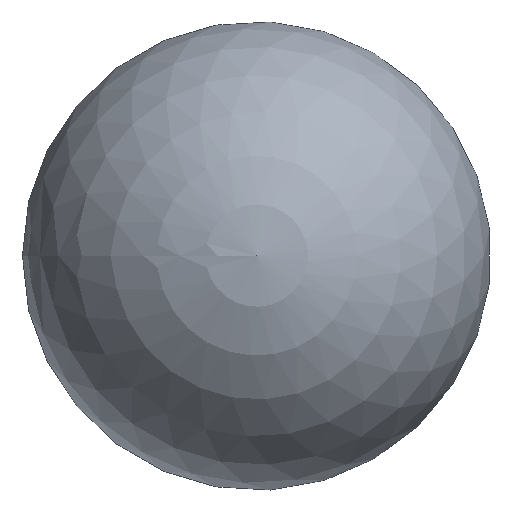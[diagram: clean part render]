
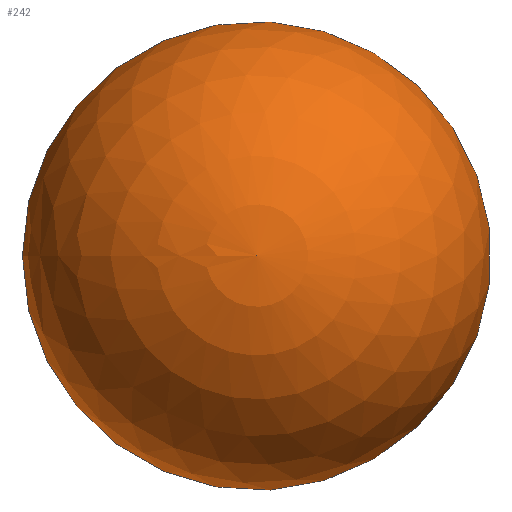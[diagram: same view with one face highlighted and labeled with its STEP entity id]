
A CAD part, top view. The second image highlights one B-rep face of the part: STEP entity #242.
In plain terms, the highlighted spherical face has radius 150 mm.
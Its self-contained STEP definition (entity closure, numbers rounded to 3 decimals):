
#19=SPHERICAL_SURFACE('',#303,150.);
#54=FACE_OUTER_BOUND('',#72,.T.);
#72=EDGE_LOOP('',(#213,#214,#215,#216));
#107=CIRCLE('',#304,41.414);
#108=CIRCLE('',#305,150.);
#109=CIRCLE('',#306,41.414);
#128=VERTEX_POINT('',#464);
#129=VERTEX_POINT('',#465);
#130=VERTEX_POINT('',#467);
#158=EDGE_CURVE('',#128,#129,#107,.T.);
#159=EDGE_CURVE('',#130,#128,#108,.T.);
#160=EDGE_CURVE('',#129,#128,#109,.T.);
#213=ORIENTED_EDGE('',*,*,#158,.F.);
#214=ORIENTED_EDGE('',*,*,#159,.F.);
#215=ORIENTED_EDGE('',*,*,#159,.T.);
#216=ORIENTED_EDGE('',*,*,#160,.F.);
#242=ADVANCED_FACE('',(#54),#19,.T.);
#303=AXIS2_PLACEMENT_3D('',#463,#386,#387);
#304=AXIS2_PLACEMENT_3D('',#466,#388,#389);
#305=AXIS2_PLACEMENT_3D('',#468,#390,#391);
#306=AXIS2_PLACEMENT_3D('',#469,#392,#393);
#386=DIRECTION('center_axis',(0.,0.,
1.));
#387=DIRECTION('ref_axis',(1.,0.,0.));
#388=DIRECTION('center_axis',(0.,0.,-1.));
#389=DIRECTION('ref_axis',(1.,0.,0.));
#390=DIRECTION('center_axis',(0.,-1.,0.));
#391=DIRECTION('ref_axis',(-1.,0.,0.));
#392=DIRECTION('center_axis',(0.,0.,-1.));
#393=DIRECTION('ref_axis',(1.,0.,0.));
#463=CARTESIAN_POINT('Origin',(0.,0.,144.17));
#464=CARTESIAN_POINT('',(-41.414,0.,0.));
#465=CARTESIAN_POINT('',(41.414,0.,0.));
#466=CARTESIAN_POINT('Origin',(0.,0.,0.));
#467=CARTESIAN_POINT('',(0.,0.,294.17));
#468=CARTESIAN_POINT('Origin',(0.,0.,144.17));
#469=CARTESIAN_POINT('Origin',(0.,0.,0.));
